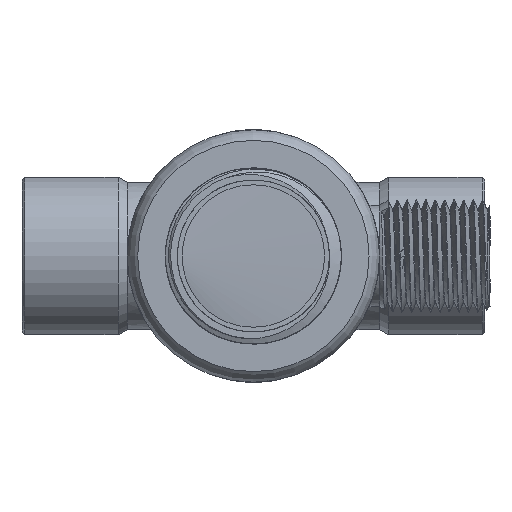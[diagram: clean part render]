
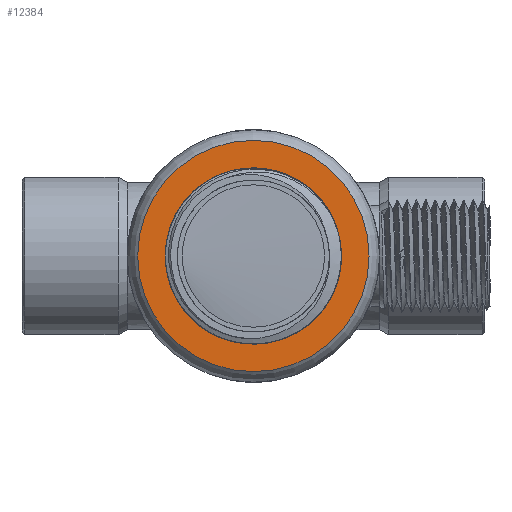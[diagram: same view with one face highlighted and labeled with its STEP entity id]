
A CAD part, left-side view. The second image highlights one B-rep face of the part: STEP entity #12384.
In plain terms, the highlighted planar face has unit normal (-1, 0, 0).
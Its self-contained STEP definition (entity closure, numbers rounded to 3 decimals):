
#211=PLANE('',#13252);
#390=FACE_BOUND('',#2056,.T.);
#396=CIRCLE('',#12447,16.75);
#397=CIRCLE('',#12448,16.75);
#504=CIRCLE('',#12890,22.);
#505=CIRCLE('',#12891,22.);
#1306=FACE_OUTER_BOUND('',#2055,.T.);
#2055=EDGE_LOOP('',(#11296,#11297));
#2056=EDGE_LOOP('',(#11298,#11299));
#4525=VERTEX_POINT('',#16887);
#4526=VERTEX_POINT('',#16889);
#5162=VERTEX_POINT('',#42060);
#5163=VERTEX_POINT('',#42062);
#5783=EDGE_CURVE('',#4525,#4526,#396,.T.);
#5784=EDGE_CURVE('',#4526,#4525,#397,.T.);
#6749=EDGE_CURVE('',#5163,#5162,#504,.T.);
#6750=EDGE_CURVE('',#5162,#5163,#505,.T.);
#11296=ORIENTED_EDGE('',*,*,#6749,.T.);
#11297=ORIENTED_EDGE('',*,*,#6750,.T.);
#11298=ORIENTED_EDGE('',*,*,#5784,.F.);
#11299=ORIENTED_EDGE('',*,*,#5783,.F.);
#12384=ADVANCED_FACE('',(#1306,#390),#211,.T.);
#12447=AXIS2_PLACEMENT_3D('',#16890,#13396,#13397);
#12448=AXIS2_PLACEMENT_3D('',#16891,#13398,#13399);
#12890=AXIS2_PLACEMENT_3D('',#42063,#14569,#14570);
#12891=AXIS2_PLACEMENT_3D('',#42064,#14571,#14572);
#13252=AXIS2_PLACEMENT_3D('',#56447,#15669,#15670);
#13396=DIRECTION('center_axis',(-1.,0.,0.));
#13397=DIRECTION('ref_axis',(0.,0.,1.));
#13398=DIRECTION('center_axis',(-1.,0.,0.));
#13399=DIRECTION('ref_axis',(0.,0.,1.));
#14569=DIRECTION('center_axis',(-1.,0.,0.));
#14570=DIRECTION('ref_axis',(0.,0.,1.));
#14571=DIRECTION('center_axis',(-1.,0.,0.));
#14572=DIRECTION('ref_axis',(0.,0.,1.));
#15669=DIRECTION('center_axis',(-1.,0.,0.));
#15670=DIRECTION('ref_axis',(0.,0.,1.));
#16887=CARTESIAN_POINT('',(-402.5,16.75,0.));
#16889=CARTESIAN_POINT('',(-402.5,-16.75,0.));
#16890=CARTESIAN_POINT('Origin',(-402.5,0.,
0.));
#16891=CARTESIAN_POINT('Origin',(-402.5,0.,
0.));
#42060=CARTESIAN_POINT('',(-402.5,0.,22.));
#42062=CARTESIAN_POINT('',(-402.5,-22.,0.));
#42063=CARTESIAN_POINT('Origin',(-402.5,0.,
0.));
#42064=CARTESIAN_POINT('Origin',(-402.5,0.,
0.));
#56447=CARTESIAN_POINT('Origin',(-402.5,-16.75,0.));
